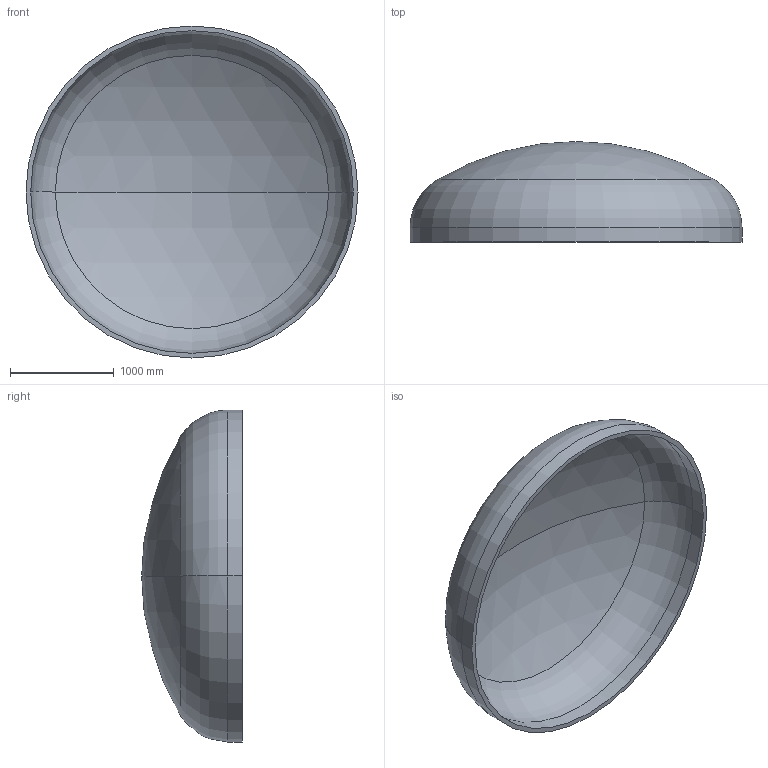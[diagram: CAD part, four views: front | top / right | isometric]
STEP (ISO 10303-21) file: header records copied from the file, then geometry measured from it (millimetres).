
FILE_DESCRIPTION (( 'STEP AP203' ), '1' );
FILE_NAME ('DIN 28013 Korbbogenform_-_Boden DIN 28013 - 3200 x 140 - I - s=45.step', '2016-07-01T18:39:32', ( '' ), ( '' ), 'SwSTEP 2.0', 'SolidWorks 2013', '' );
FILE_SCHEMA (( 'CONFIG_CONTROL_DESIGN' ));
Length unit declared in the file: millimetre
Products named in the file (1): DIN 28013 Korbbogenform_-_Boden DIN 28013 - 3200 x 140 - I - s=45
Bounding box: 3200 x 969.99 x 3200 mm (x, y, z)
Volume: 553908332.4 mm3; surface area: 25068408.3 mm2
Topology: 1 solids, 1 shells, 13 faces, 24 edges, 14 vertices
Faces by surface type: torus 4, cylinder 4, sphere 4, plane 1
Entity records: 407 total; most frequent: DIRECTION 72, CARTESIAN_POINT 52, ORIENTED_EDGE 48, AXIS2_PLACEMENT_3D 34, EDGE_CURVE 24, CIRCLE 20, EDGE_LOOP 14, VERTEX_POINT 14
